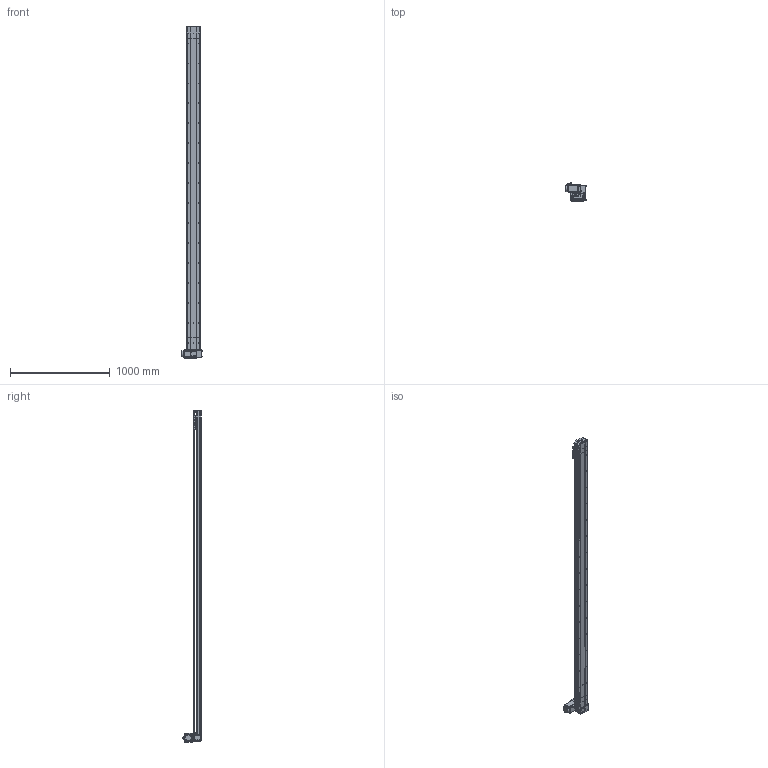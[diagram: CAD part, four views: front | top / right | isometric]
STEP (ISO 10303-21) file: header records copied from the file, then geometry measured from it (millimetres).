
FILE_DESCRIPTION (( 'STEP AP214' ), '1' );
FILE_NAME ('D14 TBH LT S3000.STEP', '2010-06-29T14:45:55', ( 'Conseil Régional Haute-Normandie' ), ( 'Conseil Régional Haute-Normandie' ), 'SwSTEP 2.0', 'SolidWorks 2010', '' );
FILE_SCHEMA (( 'AUTOMOTIVE_DESIGN' ));
Length unit declared in the file: millimetre
Products named in the file (39): poulie tail_Default; D14 TB H LT_Default; Couroie_Default; plaque de  bout tail D14_Default; corpl tail D14_Default; vis M5 L8 90°_Default; Tail D14B_Default; tete d''axe haut D14; couvercle D14 course L3000_Default; Rail + couroie D14 Course 3000 ; couvercle D14_Default; corp head D14_Default; Arbre+rail tail D14; vis M5 L16_Default; Arbre+rail head D14; couroie 2_Default; Cache_Default; Plaque racord D14_Default; chariot D14B_Default; Cvis M5 L70_Default; vis M5 L5_Default; renvoi LH_Default; Cache arbre_Default; plaque de  bout head D14 LT_Default; poulie head_Default; couvercle D14 head_Default; Moteur motionking 90BLDC100A-640; Vis M5 L16-2_Default; Chariot D14; corps 90BLDC100A-640; avant 90BLDC100A-640; Conecteur_Default; Conecteur2_Default; codeur 90BLDC100-640; guide D14; vis M5 L12_Default; D14 TBH LT S3000; corpl 3000_Default; D14 couroie L3000_Default
Assembly tree (68 placements, depth 4):
  D14 TBH LT S3000
    chariot D14B_Default
      vis M5 L12_Default  x4
      guide D14  x2
      Chariot D14
    D14 TB H LT_Default
      Cvis M5 L70_Default  x4
      vis M5 L12_Default  x12
      Vis M5 L16-2_Default  x4
      vis M5 L5_Default  x2
      Plaque racord D14_Default
      couvercle D14 head_Default
      Moteur motionking 90BLDC100A-640
        Conecteur2_Default
        avant 90BLDC100A-640
        Conecteur_Default
        codeur 90BLDC100-640
        corps 90BLDC100A-640
      couroie 2_Default
      renvoi LH_Default
      Cache_Default  x2
      Arbre+rail head D14
      plaque de  bout head D14 LT_Default
      Cache arbre_Default
      poulie head_Default
      corp head D14_Default
    Tail D14B_Default
      vis M5 L8 90°_Default  x2
      couvercle D14_Default
      Couroie_Default
      vis M5 L16_Default  x2
      corpl tail D14_Default
      tete d''axe haut D14
      vis M5 L12_Default  x4
      poulie tail_Default
      plaque de  bout tail D14_Default
      Arbre+rail tail D14
    D14 couroie L3000_Default
      Rail + couroie D14 Course 3000 
      corpl 3000_Default
      couvercle D14 course L3000_Default
Bounding box: 207.2 x 189.1 x 3325.75 mm (x, y, z)
Volume: 12160834.3 mm3; surface area: 4458688.5 mm2
Topology: 92 solids, 92 shells, 2773 faces, 6755 edges, 4362 vertices
Faces by surface type: plane 1625, cylinder 835, bspline 136, torus 89, cone 84, sphere 4
Entity records: 83384 total; most frequent: CARTESIAN_POINT 24229, ORIENTED_EDGE 10370, DIRECTION 10324, EDGE_CURVE 5185, AXIS2_PLACEMENT_3D 3471, VERTEX_POINT 3412, VECTOR 3382, LINE 3382
